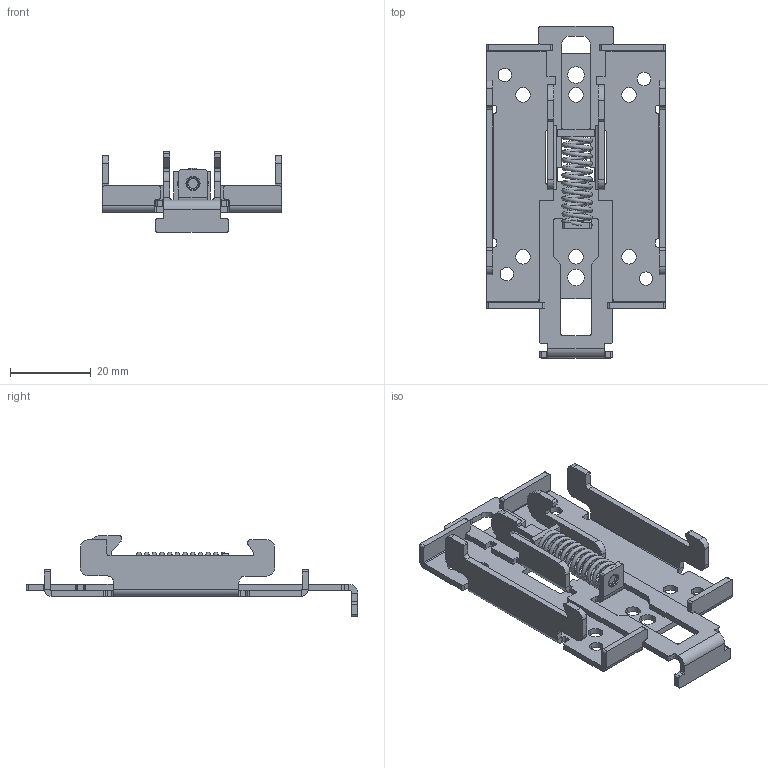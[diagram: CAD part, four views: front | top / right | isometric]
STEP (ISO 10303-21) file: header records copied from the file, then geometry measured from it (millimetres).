
FILE_DESCRIPTION (( 'STEP AP214' ), '1' );
FILE_NAME ('PR5MEC00_ASSEM.STEP', '2024-06-17T12:17:59', ( '' ), ( '' ), 'SwSTEP 2.0', 'SolidWorks 2024', '' );
FILE_SCHEMA (( 'AUTOMOTIVE_DESIGN' ));
Length unit declared in the file: millimetre
Products named in the file (3): PR5MEC00_v2; PR5MEC00_ASSEM; DIN_rail_part
Assembly tree (2 placements, depth 2):
  PR5MEC00_ASSEM
    PR5MEC00_v2
    DIN_rail_part
Bounding box: 44.2 x 82 x 20 mm (x, y, z)
Volume: 7457.3 mm3; surface area: 12192.5 mm2
Topology: 3 solids, 3 shells, 413 faces, 1111 edges, 708 vertices
Faces by surface type: plane 217, cylinder 178, torus 16, bspline 2
Entity records: 17340 total; most frequent: CARTESIAN_POINT 6383, DIRECTION 2325, ORIENTED_EDGE 2222, EDGE_CURVE 1111, AXIS2_PLACEMENT_3D 808, VECTOR 709, LINE 709, VERTEX_POINT 708
